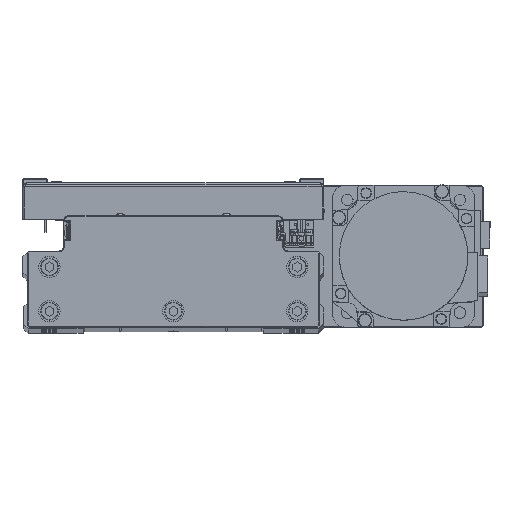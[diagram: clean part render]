
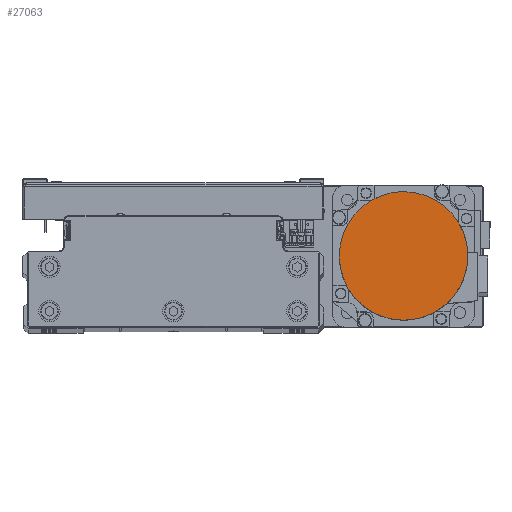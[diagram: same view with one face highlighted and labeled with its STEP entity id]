
A CAD part, top view. The second image highlights one B-rep face of the part: STEP entity #27063.
In plain terms, the highlighted planar face has unit normal (0, 0, 1) as drawn and (0, 0, -1) by its records, which use the part's own axes.
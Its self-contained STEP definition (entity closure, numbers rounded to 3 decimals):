
#2411 = DIRECTION ( 'NONE',  ( 0., 0., 1. ) ) ;
#2421 = CARTESIAN_POINT ( 'NONE',  ( -11.696, 34.446, -122.2 ) ) ;
#2641 = CARTESIAN_POINT ( 'NONE',  ( -36.3, 0., -122.2 ) ) ;
#2934 = CARTESIAN_POINT ( 'NONE',  ( -34.446, -11.696, -122.2 ) ) ;
#3152 = CARTESIAN_POINT ( 'NONE',  ( 0., -36.3, -122.2 ) ) ;
#3523 = ORIENTED_EDGE ( 'NONE', *, *, #9105, .F. ) ;
#5381 = ORIENTED_EDGE ( 'NONE', *, *, #19446, .F. ) ;
#5873 = CARTESIAN_POINT ( 'NONE',  ( -2.376, 36.3, -122.2 ) ) ;
#6088 = CARTESIAN_POINT ( 'NONE',  ( -35.139, 9.412, -122.2 ) ) ;
#6369 = CARTESIAN_POINT ( 'NONE',  ( -36.3, -2.376, -122.2 ) ) ;
#6607 = CARTESIAN_POINT ( 'NONE',  ( -9.412, -35.139, -122.2 ) ) ;
#8855 = VERTEX_POINT ( 'NONE', #28197 ) ;
#9105 = EDGE_CURVE ( 'NONE', #24830, #14547, #44503, .T. ) ;
#9553 = CARTESIAN_POINT ( 'NONE',  ( -31.502, 18.192, -122.2 ) ) ;
#9834 = DIRECTION ( 'NONE',  ( 1., 0., 0. ) ) ;
#10052 = CARTESIAN_POINT ( 'NONE',  ( -18.192, -31.502, -122.2 ) ) ;
#10753 = CARTESIAN_POINT ( 'NONE',  ( 0., 0., -122.2 ) ) ;
#10996 = CIRCLE ( 'NONE', #36711, 36.3 ) ;
#12217 = EDGE_CURVE ( 'NONE', #39965, #24830, #10996, .T. ) ;
#12446 = ORIENTED_EDGE ( 'NONE', *, *, #12217, .F. ) ;
#12981 = CARTESIAN_POINT ( 'NONE',  ( -23.988, 27.348, -122.2 ) ) ;
#13284 = PLANE ( 'NONE',  #37020 ) ;
#13508 = CARTESIAN_POINT ( 'NONE',  ( -27.348, -23.988, -122.2 ) ) ;
#14547 = VERTEX_POINT ( 'NONE', #41342 ) ;
#16318 = EDGE_CURVE ( 'NONE', #14547, #8855, #37938, .T. ) ;
#16427 = DIRECTION ( 'NONE',  ( -1., 0., 0. ) ) ;
#16440 = CARTESIAN_POINT ( 'NONE',  ( -16.086, 32.628, -122.2 ) ) ;
#16948 = CARTESIAN_POINT ( 'NONE',  ( -32.628, -16.086, -122.2 ) ) ;
#18321 = ORIENTED_EDGE ( 'NONE', *, *, #16318, .F. ) ;
#19446 = EDGE_CURVE ( 'NONE', #8855, #39965, #42548, .T. ) ;
#19898 = CARTESIAN_POINT ( 'NONE',  ( -4.752, 36.066, -122.2 ) ) ;
#20112 = CARTESIAN_POINT ( 'NONE',  ( -36.066, 4.752, -122.2 ) ) ;
#20394 = CARTESIAN_POINT ( 'NONE',  ( -36.066, -4.752, -122.2 ) ) ;
#20629 = CARTESIAN_POINT ( 'NONE',  ( -4.752, -36.066, -122.2 ) ) ;
#22756 = AXIS2_PLACEMENT_3D ( 'NONE', #10753, #24758, #38792 ) ;
#23555 = CARTESIAN_POINT ( 'NONE',  ( -32.628, 16.086, -122.2 ) ) ;
#24055 = CARTESIAN_POINT ( 'NONE',  ( -16.086, -32.628, -122.2 ) ) ;
#24758 = DIRECTION ( 'NONE',  ( 0., 0., 1. ) ) ;
#24830 = VERTEX_POINT ( 'NONE', #37256 ) ;
#26998 = CARTESIAN_POINT ( 'NONE',  ( -27.348, 23.988, -122.2 ) ) ;
#27063 = ADVANCED_FACE ( 'NONE', ( #44751 ), #13284, .F. ) ;
#27297 = CARTESIAN_POINT ( 'NONE',  ( 0., 0., -122.2 ) ) ;
#27527 = CARTESIAN_POINT ( 'NONE',  ( -23.988, -27.348, -122.2 ) ) ;
#28197 = CARTESIAN_POINT ( 'NONE',  ( 0., -36.3, -122.2 ) ) ;
#29037 = CARTESIAN_POINT ( 'NONE',  ( 36.3, 0., -122.2 ) ) ;
#30464 = CARTESIAN_POINT ( 'NONE',  ( -18.192, 31.502, -122.2 ) ) ;
#30975 = CARTESIAN_POINT ( 'NONE',  ( -31.502, -18.192, -122.2 ) ) ;
#33906 = CARTESIAN_POINT ( 'NONE',  ( 0., 0., -122.2 ) ) ;
#33915 = CARTESIAN_POINT ( 'NONE',  ( -9.412, 35.139, -122.2 ) ) ;
#34140 = CARTESIAN_POINT ( 'NONE',  ( -36.3, 2.376, -122.2 ) ) ;
#34425 = CARTESIAN_POINT ( 'NONE',  ( -35.139, -9.412, -122.2 ) ) ;
#34657 = CARTESIAN_POINT ( 'NONE',  ( -2.376, -36.3, -122.2 ) ) ;
#36711 = AXIS2_PLACEMENT_3D ( 'NONE', #33906, #2411, #16427 ) ;
#37020 = AXIS2_PLACEMENT_3D ( 'NONE', #27297, #41294, #9834 ) ;
#37256 = CARTESIAN_POINT ( 'NONE',  ( 0., 36.3, -122.2 ) ) ;
#37364 = CARTESIAN_POINT ( 'NONE',  ( 0., 36.3, -122.2 ) ) ;
#37587 = CARTESIAN_POINT ( 'NONE',  ( -34.446, 11.696, -122.2 ) ) ;
#37862 = CARTESIAN_POINT ( 'NONE',  ( -36.3, 0., -122.2 ) ) ;
#37938 = B_SPLINE_CURVE_WITH_KNOTS ( 'NONE', 3,
 ( #37862, #6369, #20394, #34425, #2934, #16948, #30975, #44967, #13508, #27527, #41518, #10052, #24055, #38094, #6607, #20629, #34657, #3152 ),
 .UNSPECIFIED., .F., .F.,
 ( 4, 2, 2, 2, 2, 2, 2, 2, 4 ),
 ( 0., 0.125, 0.25, 0.375, 0.5, 0.625, 0.75, 0.875, 1. ),
 .UNSPECIFIED. ) ;
#38094 = CARTESIAN_POINT ( 'NONE',  ( -11.696, -34.446, -122.2 ) ) ;
#38792 = DIRECTION ( 'NONE',  ( -1., 0., 0. ) ) ;
#39965 = VERTEX_POINT ( 'NONE', #29037 ) ;
#41012 = CARTESIAN_POINT ( 'NONE',  ( -28.862, 22.143, -122.2 ) ) ;
#41294 = DIRECTION ( 'NONE',  ( 0., 0., 1. ) ) ;
#41342 = CARTESIAN_POINT ( 'NONE',  ( -36.3, 0., -122.2 ) ) ;
#41518 = CARTESIAN_POINT ( 'NONE',  ( -22.143, -28.862, -122.2 ) ) ;
#42548 = CIRCLE ( 'NONE', #22756, 36.3 ) ;
#43537 = EDGE_LOOP ( 'NONE', ( #5381, #18321, #3523, #12446 ) ) ;
#44457 = CARTESIAN_POINT ( 'NONE',  ( -22.143, 28.862, -122.2 ) ) ;
#44503 = B_SPLINE_CURVE_WITH_KNOTS ( 'NONE', 3,
 ( #37364, #5873, #19898, #33915, #2421, #16440, #30464, #44457, #12981, #26998, #41012, #9553, #23555, #37587, #6088, #20112, #34140, #2641 ),
 .UNSPECIFIED., .F., .F.,
 ( 4, 2, 2, 2, 2, 2, 2, 2, 4 ),
 ( 0., 0.125, 0.25, 0.375, 0.5, 0.625, 0.75, 0.875, 1. ),
 .UNSPECIFIED. ) ;
#44751 = FACE_OUTER_BOUND ( 'NONE', #43537, .T. ) ;
#44967 = CARTESIAN_POINT ( 'NONE',  ( -28.862, -22.143, -122.2 ) ) ;
